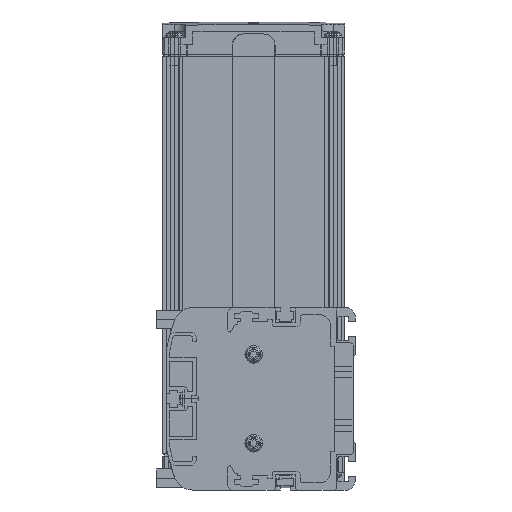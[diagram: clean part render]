
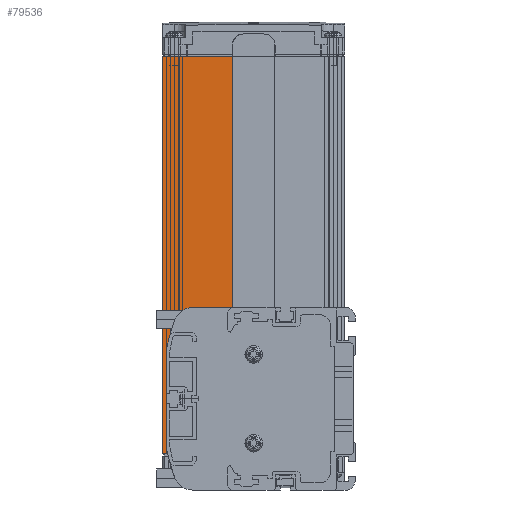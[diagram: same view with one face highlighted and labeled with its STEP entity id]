
A CAD part, left-side view. The second image highlights one B-rep face of the part: STEP entity #79536.
In plain terms, the highlighted planar face has unit normal (-1, 0, 0).
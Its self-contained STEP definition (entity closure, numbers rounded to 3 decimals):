
#78118=DIRECTION('',(0.,-1.,0.));
#78119=VECTOR('',#78118,17.9);
#78120=CARTESIAN_POINT('',(3.,70.5,27.5));
#78121=LINE('',#78120,#78119);
#78126=DIRECTION('',(0.,0.,1.));
#78127=VECTOR('',#78126,51.);
#78128=CARTESIAN_POINT('',(3.,70.5,-23.5));
#78129=LINE('',#78128,#78127);
#78134=DIRECTION('',(0.,-1.,0.));
#78135=VECTOR('',#78134,12.);
#78136=CARTESIAN_POINT('',(3.,82.5,-23.5));
#78137=LINE('',#78136,#78135);
#78138=DIRECTION('',(0.,0.,-1.));
#78139=VECTOR('',#78138,170.);
#78140=CARTESIAN_POINT('',(3.,82.5,146.5));
#78141=LINE('',#78140,#78139);
#78142=DIRECTION('',(0.,1.,0.));
#78143=VECTOR('',#78142,29.9);
#78144=CARTESIAN_POINT('',(3.,52.6,146.5));
#78145=LINE('',#78144,#78143);
#78180=DIRECTION('',(0.,0.,1.));
#78181=VECTOR('',#78180,119.);
#78182=CARTESIAN_POINT('',(3.,52.6,27.5));
#78183=LINE('',#78182,#78181);
#78337=CARTESIAN_POINT('',(3.,70.5,-23.5));
#78338=VERTEX_POINT('',#78337);
#78339=CARTESIAN_POINT('',(3.,82.5,-23.5));
#78340=VERTEX_POINT('',#78339);
#78475=CARTESIAN_POINT('',(3.,52.6,146.5));
#78476=VERTEX_POINT('',#78475);
#78477=CARTESIAN_POINT('',(3.,82.5,146.5));
#78478=VERTEX_POINT('',#78477);
#78535=CARTESIAN_POINT('',(3.,70.5,27.5));
#78536=CARTESIAN_POINT('',(3.,52.6,27.5));
#78537=VERTEX_POINT('',#78535);
#78538=VERTEX_POINT('',#78536);
#79521=CARTESIAN_POINT('',(3.,67.55,61.5));
#79522=DIRECTION('',(1.,0.,0.));
#79523=DIRECTION('',(0.,-1.,0.));
#79524=AXIS2_PLACEMENT_3D('',#79521,#79522,#79523);
#79525=PLANE('',#79524);
#79526=ORIENTED_EDGE('',*,*,#79497,.F.);
#79527=ORIENTED_EDGE('',*,*,#79514,.F.);
#79528=ORIENTED_EDGE('',*,*,#78642,.F.);
#79530=ORIENTED_EDGE('',*,*,#79529,.F.);
#79531=ORIENTED_EDGE('',*,*,#79053,.F.);
#79533=ORIENTED_EDGE('',*,*,#79532,.F.);
#79534=EDGE_LOOP('',(#79526,#79527,#79528,#79530,#79531,#79533));
#79535=FACE_OUTER_BOUND('',#79534,.F.);
#79536=ADVANCED_FACE('',(#79535),#79525,.F.);
#78642=EDGE_CURVE('',#78340,#78338,#78137,.T.);
#79053=EDGE_CURVE('',#78476,#78478,#78145,.T.);
#79497=EDGE_CURVE('',#78537,#78538,#78121,.T.);
#79514=EDGE_CURVE('',#78338,#78537,#78129,.T.);
#79529=EDGE_CURVE('',#78478,#78340,#78141,.T.);
#79532=EDGE_CURVE('',#78538,#78476,#78183,.T.);
